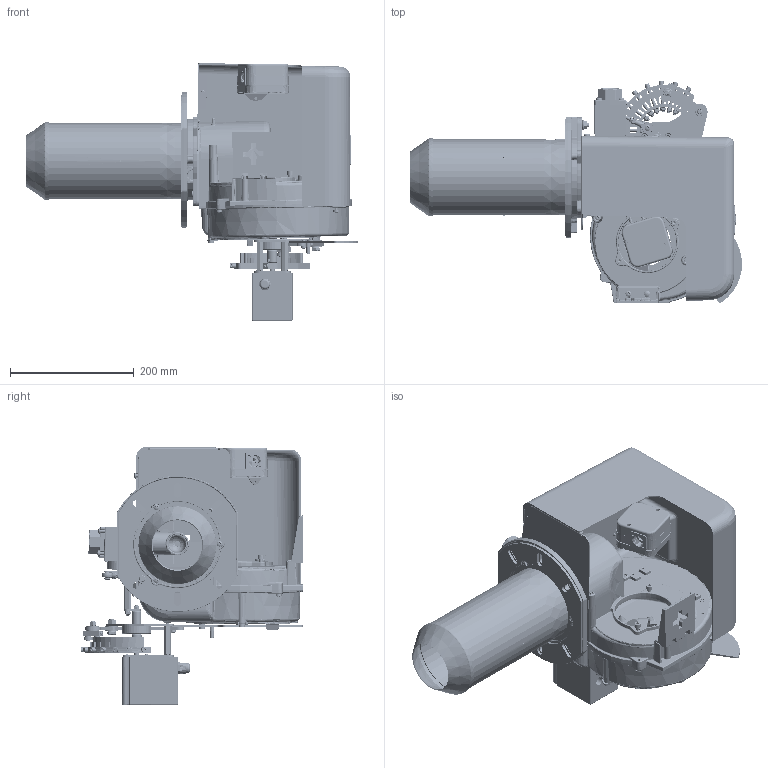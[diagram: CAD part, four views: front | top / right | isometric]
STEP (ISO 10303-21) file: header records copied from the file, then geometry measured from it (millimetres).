
FILE_DESCRIPTION(('STEP AP214'), '1');
FILE_NAME('GARANT-20 G òðóáà 250ìì', '', ('UNSPECIFIED'), ('UNSPECIFIED'), 'ASCON STEP Converter 1.3', 'ASCON Math Kernel', '');
FILE_SCHEMA(('AUTOMOTIVE_DESIGN { 1 0 10303 214 3 1 1}'));
Length unit declared in the file: millimetre
Products named in the file (1): GARANT-20 G òðóáà 250ìì
Bounding box: 536.41 x 359.62 x 417.46 mm (x, y, z)
Volume: 1871213.3 mm3; surface area: 1584340.6 mm2
Topology: 35 solids, 38 shells, 11434 faces, 30071 edges, 19288 vertices
Faces by surface type: plane 5054, cylinder 2455, bspline 2006, cone 1088, torus 535, extrusion 151, sphere 145
Full cylindrical faces by diameter (mm): 1.4 x1, 1.5 x1, 1.75 x1, 1.9 x2, 2 x2, 2.05 x2, 2.207 x1, 2.4 x1, 2.5 x4, 2.6 x3, 2.9 x4, 3 x5, 3.007 x1, 3.2 x4, 3.3 x4, 3.5 x1, 3.6 x4, 3.63 x2, 3.7 x1, 4 x13, 4.1 x4, 4.15 x1, 4.2 x10, 4.3 x2, 4.5 x6, 4.9 x1, 5 x73, 5.2 x22, 5.4 x5, 5.5 x7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
Entity records: 715519 total; most frequent: CARTESIAN_POINT 362414, ORIENTED_EDGE 57876, DIRECTION 47103, EDGE_CURVE 28938, VERTEX_POINT 19201, AXIS2_PLACEMENT_3D 16720, VECTOR 13663, LINE 13512
